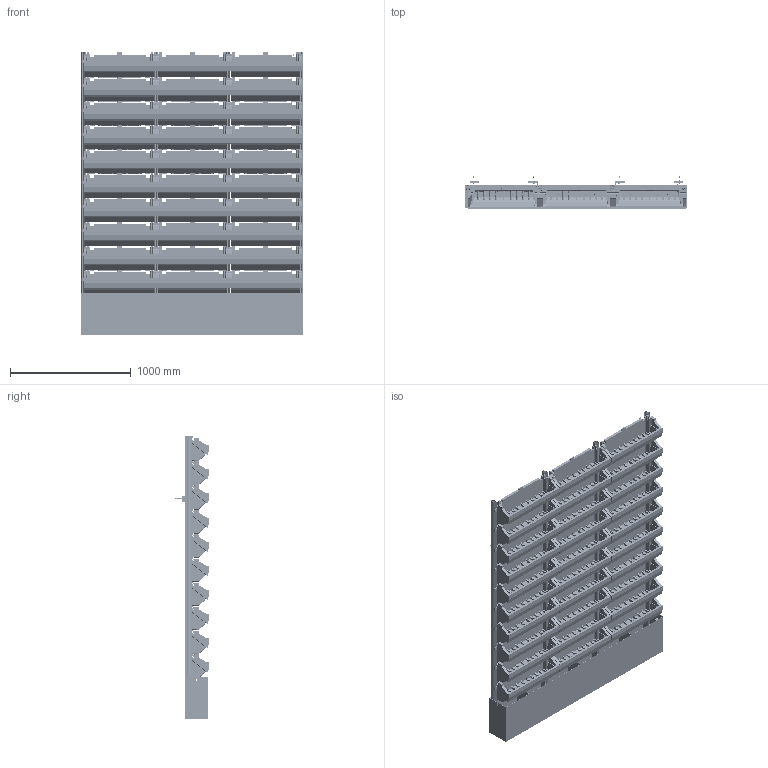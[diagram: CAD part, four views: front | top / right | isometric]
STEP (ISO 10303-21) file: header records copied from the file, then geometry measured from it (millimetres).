
FILE_DESCRIPTION(/* description */ (''),/* implementation_level */ '2;1');
FILE_NAME(/* name */ 'VP_EASY_Monofacciale_180 3D ',/* time_stamp */ '2023-04-12T11:24:22+02:00',/* author */ (''),/* organization */ (''),/* preprocessor_version */ 'ST-DEVELOPER v16.5',/* originating_system */ 'Rhino 7.20',/* authorisation */ '');
FILE_SCHEMA (('CONFIG_CONTROL_DESIGN'));
Products named in the file (1): Document
Bounding box: 1846 x 281.89 x 2377.59 mm (x, y, z)
Volume: 2276492.1 mm3; surface area: 28208676.4 mm2
Topology: 280 solids, 353 shells, 28513 faces, 75180 edges, 46399 vertices
Faces by surface type: plane 13713, cylinder 10651, bspline 4149
Full cylindrical faces by diameter (mm): 5 x180, 6 x146, 6.5 x4, 8 x1, 8.4 x8, 12 x1, 13 x22, 16 x11, 18 x4, 24 x1, 24.598 x10, 24.782 x38, 27.99 x11, 28.178 x10, 31.75 x4
Entity records: 1354869 total; most frequent: CARTESIAN_POINT 882300, ORIENTED_EDGE 146301, EDGE_CURVE 75109, VERTEX_POINT 46392, B_SPLINE_CURVE_WITH_KNOTS 43562, EDGE_LOOP 29011, ADVANCED_FACE 28513, FACE_OUTER_BOUND 28513
